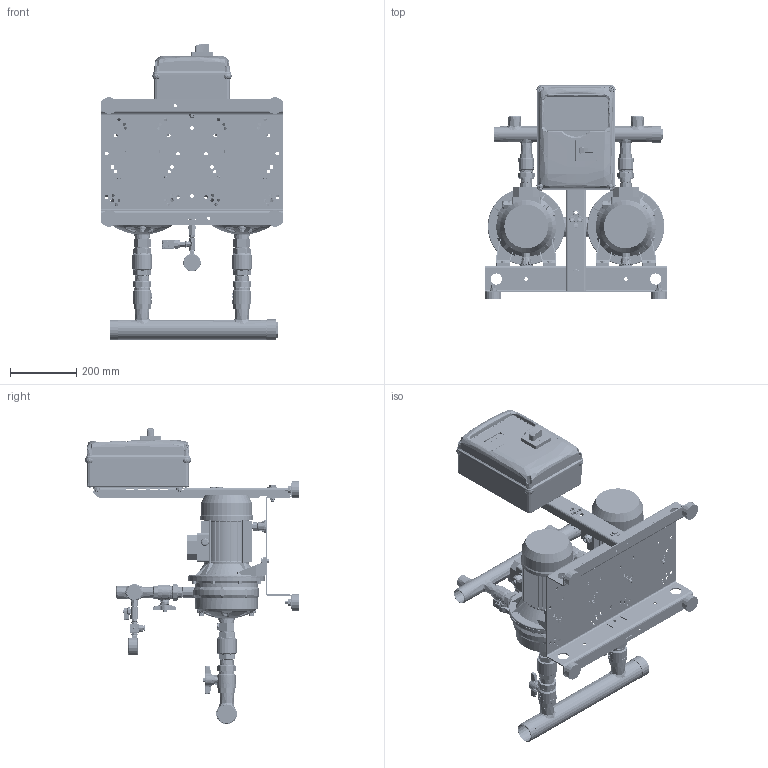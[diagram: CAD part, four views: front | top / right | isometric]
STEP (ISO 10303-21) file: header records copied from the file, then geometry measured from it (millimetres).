
FILE_DESCRIPTION((''),'2;1');
FILE_NAME('2GP_2CDX_70-15_REV5_ASM','2025-02-04T15:45:59',('Utente'),('"Ebara Pumps Europe S.p.A"'),'CREO PARAMETRIC BY PTC INC, 2022124','CREO PARAMETRIC BY PTC INC, 2022124','');
FILE_SCHEMA(('AUTOMOTIVE_DESIGN { 1 0 10303 214 1 1 1 1 }'));
Products named in the file (40): 62508_275562936; CALOTTA_F_A304_DN50_369800820; VAL_INT_MF-B_OTN_CIM346_DN32; VAL_INT_M-F-3_OTN_CIM346_DN32_ASM; VAL-NR-FF-OTN-CIM30-DN32; VAL_NR_F-F_OTN_CIM30_DN32_ASM; NIPPLO-ALIM_OT_DN32_361910051; TAPPO_M_OT_1-2_380000878; 3IEP_2CDX_70-15_IE3; EP_2CDX_70-15_ASM; VAL_INT_MF-B_OTN_CIM346_DN25; VAL_INT_M-F-3_OTN_CIM346_DN25_ASM; RONDEL-P_FE_ZN_UNI6592_M8; DADO_AUTOAGG_M8_ESAG; VITI_TE_ISO4017_M8_L20; 62510_275562939; CALOTTA_F_A304_DN40_369800819; TAPPO-SALVAFIL_D31; VAL_INT_MF_OTN_CIM012_DN8; NIPPLO_OTG_8_380000861; RACC-T_OTG_DN8_380000880; MAN_RAD_D50_10BAR_361600160; BASE_2GP_I300-B300_DNRV; MONTANTE_H600_271472877; PIEDINO_CIL_369650010; RONDEL-P_FE_ZN_UNI6592_M10; DADI_NORM_ISO4032_FE_ZN_M10; RONDEL-P_ZN_UNI6593_M10X30X2-5; VITI_TE_ISO4017_M10_L45; TRAVERSO_MONT_L200_271472882; RONDEL-P_FE_ZN_UNI6593_M6X18X2; RONDEL-P_FE_ZN_UNI6592_M6; VITI_TE_ISO4017_M6_L20; DADI_NORM_ISO4032_FE_ZN_M6; DADO_AUTOAGG_M10_ESAG; DNRV_2P_I300-B300_H600-Q220X300_ASM; COM_EP-PRO_2T_7-5_KW_362334215; PG_PVC_D10-5_380000891; TRASD_16BAR_460500024; 2GP_2CDX_70-15_REV5_ASM
Assembly tree (83 placements, depth 3):
  2GP_2CDX_70-15_REV5_ASM
    62508_275562936
    CALOTTA_F_A304_DN50_369800820
    VAL_INT_M-F-3_OTN_CIM346_DN32_ASM  x2
      VAL_INT_MF-B_OTN_CIM346_DN32
    VAL_NR_F-F_OTN_CIM30_DN32_ASM  x2
      VAL-NR-FF-OTN-CIM30-DN32
    NIPPLO-ALIM_OT_DN32_361910051  x2
    TAPPO_M_OT_1-2_380000878  x2
    EP_2CDX_70-15_ASM  x2
      3IEP_2CDX_70-15_IE3
    VAL_INT_M-F-3_OTN_CIM346_DN25_ASM  x2
      VAL_INT_MF-B_OTN_CIM346_DN25
    RONDEL-P_FE_ZN_UNI6592_M8  x4
    DADO_AUTOAGG_M8_ESAG  x4
    VITI_TE_ISO4017_M8_L20  x4
    62510_275562939
    CALOTTA_F_A304_DN40_369800819
    TAPPO-SALVAFIL_D31  x2
    VAL_INT_MF_OTN_CIM012_DN8
    NIPPLO_OTG_8_380000861
    RACC-T_OTG_DN8_380000880
    MAN_RAD_D50_10BAR_361600160
    DNRV_2P_I300-B300_H600-Q220X300_ASM
      BASE_2GP_I300-B300_DNRV
      MONTANTE_H600_271472877
      PIEDINO_CIL_369650010  x4
      RONDEL-P_FE_ZN_UNI6592_M10  x4
      DADI_NORM_ISO4032_FE_ZN_M10  x4
      RONDEL-P_ZN_UNI6593_M10X30X2-5
      VITI_TE_ISO4017_M10_L45
      TRAVERSO_MONT_L200_271472882  x2
      RONDEL-P_FE_ZN_UNI6593_M6X18X2  x8
      RONDEL-P_FE_ZN_UNI6592_M6  x4
      VITI_TE_ISO4017_M6_L20  x4
      DADI_NORM_ISO4032_FE_ZN_M6  x4
      DADO_AUTOAGG_M10_ESAG
    COM_EP-PRO_2T_7-5_KW_362334215
    PG_PVC_D10-5_380000891  x3
    TRASD_16BAR_460500024
Bounding box: 550 x 644.45 x 893.45 mm (x, y, z)
Volume: 6426332.5 mm3; surface area: 3541514.9 mm2
Topology: 1351 solids, 1486 shells, 21096 faces, 53485 edges, 35586 vertices
Faces by surface type: plane 14040, cylinder 3207, cone 1332, extrusion 943, bspline 833, torus 644, sphere 95, revolution 2
Entity records: 941526 total; most frequent: CARTESIAN_POINT 293258, ORIENTED_EDGE 79693, DIRECTION 74780, PRESENTATION_STYLE_ASSIGNMENT 51717, STYLED_ITEM 42248, EDGE_CURVE 40810, CURVE_STYLE 38693, VECTOR 30106
